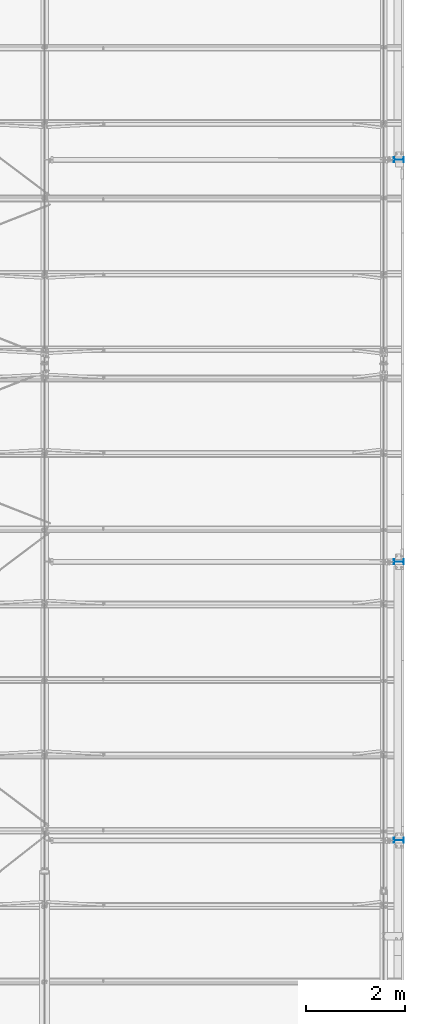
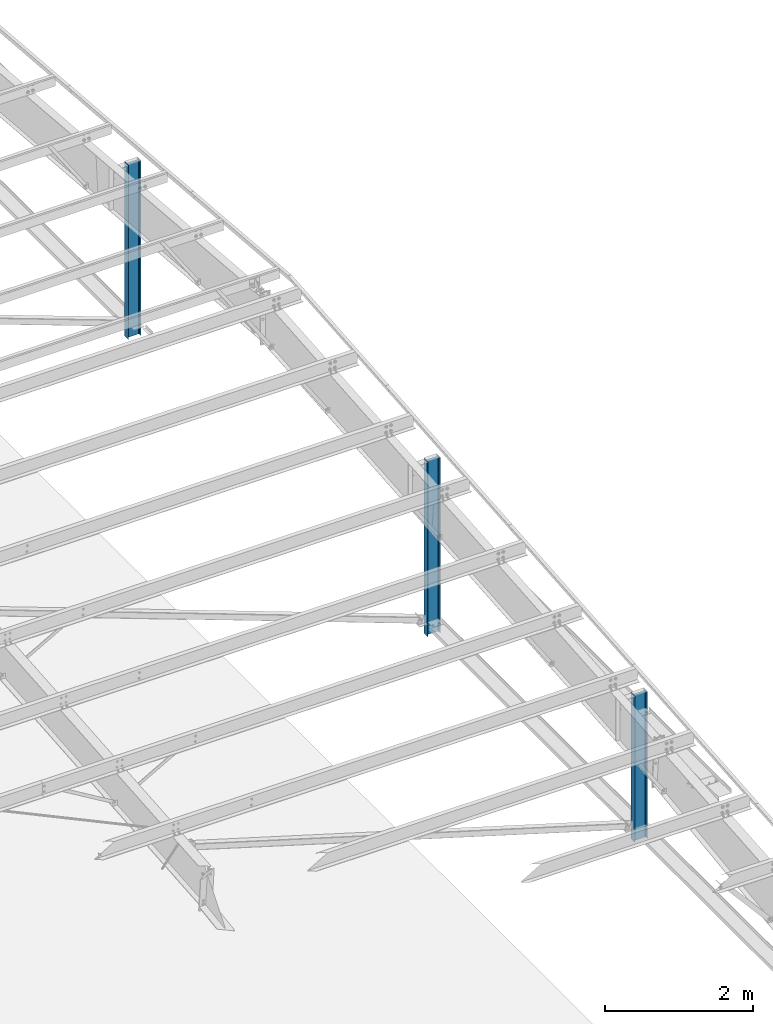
# One storey, part 4 of 185: 3 columns, 3 elements without a shape of their own.
"""IFC2X3 building model written with IfcOpenShell, lengths in millimetres."""

from ifc_helpers import new_model, si_unit, frame, origin_with_axes, origin_2d_with_axis, place, context, subcontext, project, spatial, i_section, extrude, material, type_object, element, aggregate, save


model = new_model("IFC2X3")

# Units and contexts
model_context = context("Model", 3, precision=1e-05, world=origin_with_axes())
body_context = subcontext(model_context, "Body", "Model", "MODEL_VIEW")
ifc_project = project(units=[si_unit("LENGTHUNIT", "METRE", prefix="MILLI"), si_unit("AREAUNIT", "SQUARE_METRE"), si_unit("VOLUMEUNIT", "CUBIC_METRE"), si_unit("MASSUNIT", "GRAM", prefix="KILO"), si_unit("TIMEUNIT", "SECOND"), si_unit("PLANEANGLEUNIT", "RADIAN"), si_unit("SOLIDANGLEUNIT", "STERADIAN"), si_unit("THERMODYNAMICTEMPERATUREUNIT", "DEGREE_CELSIUS"), si_unit("LUMINOUSINTENSITYUNIT", "LUMEN")], contexts=[model_context])

# Site, building, storey
site_placement = place(None, origin_with_axes())
site = spatial("IfcSite", under=ifc_project, at=site_placement, Name="Undefined", CompositionType="ELEMENT")
building_placement = place(site_placement, origin_with_axes())
building = spatial("IfcBuilding", under=site, at=building_placement, Name="Undefined", CompositionType="ELEMENT")
storey_placement = place(building_placement, origin_with_axes())
storey = spatial("IfcBuildingStorey", under=building, at=storey_placement, Name="Undefined", CompositionType="ELEMENT", Elevation=0.0)

# Assembly, column
assembly_1_placement = place(storey_placement, origin_with_axes())
assembly_1 = element("IfcElementAssembly", 1, at=assembly_1_placement, inside=storey, Name="Steel Assembly", AssemblyPlace="NOTDEFINED", PredefinedType="RIGID_FRAME")
ifc_material = material(Name="STEEL/55")
column_type = type_object("IfcColumnType", Name="W8X10", PredefinedType="NOTDEFINED")
column_1_placement = place(assembly_1_placement, frame((44857.9875, 6400.8, 3962.4), z_axis=(0.0, 0.0, 1.0), x_axis=(1.0, 0.0, 0.0)))
column_1 = element("IfcColumn", 2, at=column_1_placement, type_object=column_type, material=ifc_material, Name="COLUMN", ObjectType="W8X10", context=body_context, shape_type="SweptSolid", body=[
    extrude(i_section(OverallWidth=101.6, OverallDepth=200.025, WebThickness=4.7625, FlangeThickness=4.7625, FilletRadius=12.7, at=origin_2d_with_axis()), frame((0.0, 0.0, 2427.2875), z_axis=(0.0, 0.0, -1.0), x_axis=(0.0, 1.0, 0.0)), (0.0, 0.0, 1.0), 2427.3),
])
aggregate(assembly_1, [column_1])

assembly_2_placement = place(storey_placement, origin_with_axes())
assembly_2 = element("IfcElementAssembly", 3, at=assembly_2_placement, inside=storey, Name="Steel Assembly", AssemblyPlace="NOTDEFINED", PredefinedType="RIGID_FRAME")
column_2_placement = place(assembly_2_placement, frame((44857.9875, 12013.7558371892, 3961.83381963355), z_axis=(0.0, 0.0, 1.0), x_axis=(1.0, 0.0, 0.0)))
column_2 = element("IfcColumn", 4, at=column_2_placement, type_object=column_type, material=ifc_material, Name="COLUMN", ObjectType="W8X10", context=body_context, shape_type="SweptSolid", body=[
    extrude(i_section(OverallWidth=101.6, OverallDepth=200.025, WebThickness=4.7625, FlangeThickness=4.7625, FilletRadius=12.7, at=origin_2d_with_axis()), frame((0.0, 0.0, 2895.60000000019), z_axis=(0.0, 0.0, -1.0), x_axis=(0.0, 1.0, 0.0)), (0.0, 0.0, 1.0), 2895.6),
])
aggregate(assembly_2, [column_2])

assembly_3_placement = place(storey_placement, origin_with_axes())
assembly_3 = element("IfcElementAssembly", 5, at=assembly_3_placement, inside=storey, Name="Steel Assembly", AssemblyPlace="NOTDEFINED", PredefinedType="RIGID_FRAME")
column_3_placement = place(assembly_3_placement, frame((44857.9875, 20116.8, 3962.4), z_axis=(0.0, 0.0, 1.0), x_axis=(1.0, 0.0, 0.0)))
column_3 = element("IfcColumn", 6, at=column_3_placement, type_object=column_type, material=ifc_material, Name="COLUMN", ObjectType="W8X10", context=body_context, shape_type="SweptSolid", body=[
    extrude(i_section(OverallWidth=101.6, OverallDepth=200.025, WebThickness=4.7625, FlangeThickness=4.7625, FilletRadius=12.7, at=origin_2d_with_axis()), frame((0.0, 0.0, 2884.4875), z_axis=(0.0, 0.0, -1.0), x_axis=(0.0, 1.0, 0.0)), (0.0, 0.0, 1.0), 2884.5),
])
aggregate(assembly_3, [column_3])

save(model, "model.ifc")
